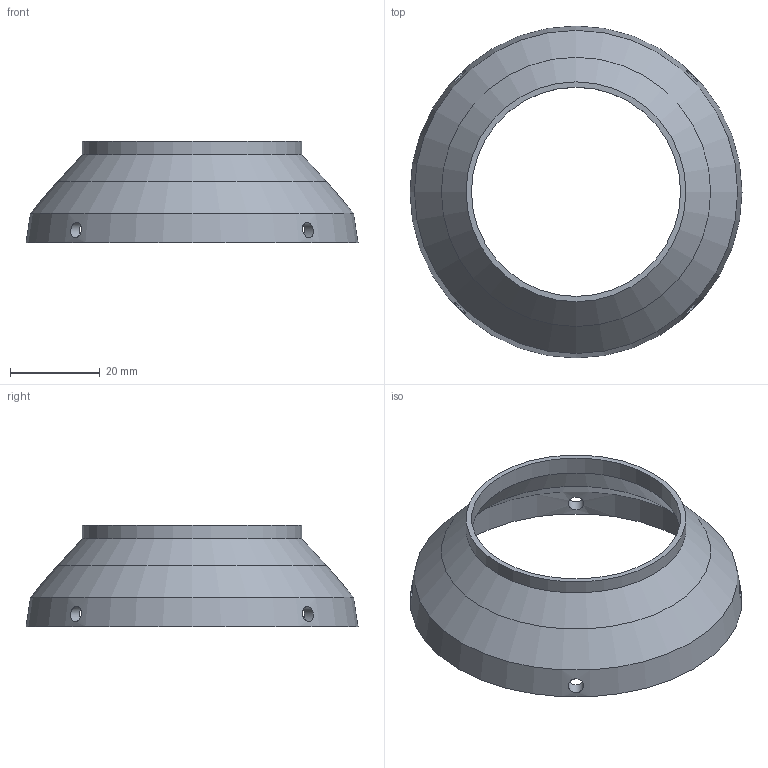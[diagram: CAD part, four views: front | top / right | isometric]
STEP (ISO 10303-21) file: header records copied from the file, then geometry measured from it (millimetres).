
FILE_DESCRIPTION(('FreeCAD Model'),'2;1');
FILE_NAME('Open CASCADE Shape Model','2026-09-19T18:07:28',('FreeCAD'),( 'FreeCAD'),'Open CASCADE STEP processor 7.8','FreeCAD','Unknown');
FILE_SCHEMA(('AUTOMOTIVE_DESIGN { 1 0 10303 214 1 1 1 1 }'));
Length unit declared in the file: millimetre
Products named in the file (1): Open CASCADE STEP translator 7.8 8
Bounding box: 74 x 74 x 22.6 mm (x, y, z)
Volume: 11469.7 mm3; surface area: 11027.3 mm2
Topology: 1 solids, 1 shells, 14 faces, 30 edges, 18 vertices
Faces by surface type: cylinder 7, cone 5, plane 2
Full cylindrical faces by diameter (mm): 3.4 x4, 46.6 x1, 49 x1, 67.6 x1
Entity records: 1072 total; most frequent: CARTESIAN_POINT 745, DIRECTION 62, ORIENTED_EDGE 60, EDGE_CURVE 30, AXIS2_PLACEMENT_3D 25, FACE_BOUND 24, EDGE_LOOP 24, VERTEX_POINT 18
